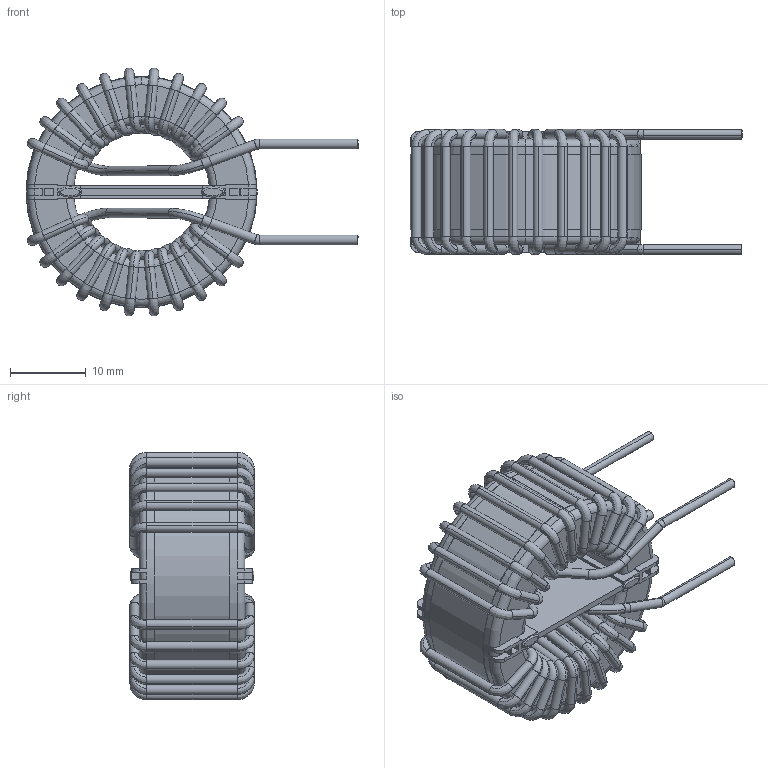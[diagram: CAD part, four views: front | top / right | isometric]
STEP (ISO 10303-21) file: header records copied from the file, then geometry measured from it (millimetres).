
FILE_DESCRIPTION (( 'STEP AP203' ), '1' );
FILE_NAME ('HN-V-902U-12A.STEP', '2020-06-30T13:45:39', ( 'Windows User' ), ( '' ), 'SwSTEP 2.0', 'SolidWorks 2015', '' );
FILE_SCHEMA (( 'CONFIG_CONTROL_DESIGN' ));
Length unit declared in the file: millimetre
Products named in the file (1): HN-V-902U-12A
Bounding box: 43.95 x 16.53 x 32.79 mm (x, y, z)
Volume: 8357.1 mm3; surface area: 10283.9 mm2
Topology: 13 solids, 13 shells, 643 faces, 1831 edges, 1216 vertices
Faces by surface type: cylinder 247, bspline 140, plane 132, torus 124
Entity records: 30529 total; most frequent: CARTESIAN_POINT 14050, ORIENTED_EDGE 3662, DIRECTION 3447, EDGE_CURVE 1831, AXIS2_PLACEMENT_3D 1436, VERTEX_POINT 1216, CIRCLE 932, EDGE_LOOP 649
